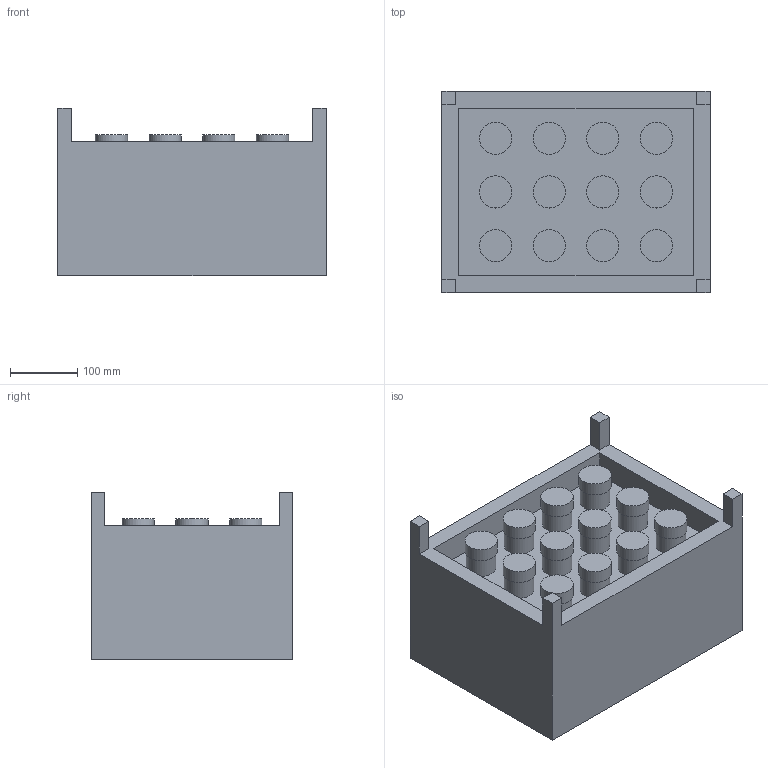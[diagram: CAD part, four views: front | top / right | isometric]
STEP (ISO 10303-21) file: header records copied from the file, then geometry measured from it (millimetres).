
FILE_DESCRIPTION(/* description */ (''),/* implementation_level */ '2;1');
FILE_NAME(/* name */ 'sample_box.step',/* time_stamp */ '2026-11-14T21:11:00+01:00',/* author */ ('malgo'),/* organization */ (''),/* preprocessor_version */ 'ST-DEVELOPER v20.1',/* originating_system */ 'Autodesk Inventor 2026',/* authorisation */ '');
FILE_SCHEMA (('AUTOMOTIVE_DESIGN { 1 0 10303 214 3 1 1 }'));
Length unit declared in the file: metre
Products named in the file (1): sample_box
Bounding box: 400 x 300 x 250 mm (x, y, z)
Volume: 21561684.9 mm3; surface area: 676890.6 mm2
Topology: 1 solids, 1 shells, 71 faces, 132 edges, 88 vertices
Faces by surface type: plane 47, cylinder 24
Full cylindrical faces by diameter (mm): 44 x12, 48 x12
Entity records: 1811 total; most frequent: DIRECTION 324, CARTESIAN_POINT 292, ORIENTED_EDGE 264, EDGE_CURVE 132, AXIS2_PLACEMENT_3D 120, EDGE_LOOP 96, VERTEX_POINT 88, LINE 84
